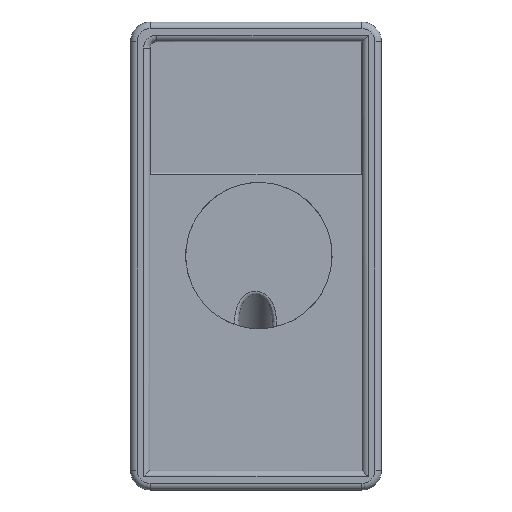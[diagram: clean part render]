
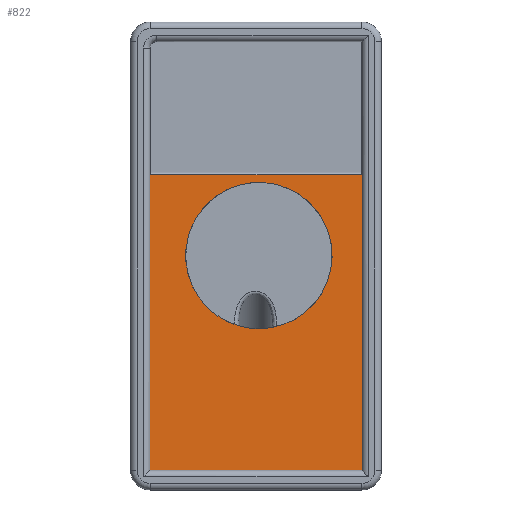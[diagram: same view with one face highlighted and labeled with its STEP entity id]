
A CAD part, top view. The second image highlights one B-rep face of the part: STEP entity #822.
In plain terms, the highlighted planar face has unit normal (0, 0, 1).
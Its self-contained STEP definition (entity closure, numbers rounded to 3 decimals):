
#21=FACE_BOUND('',#303,.T.);
#53=CIRCLE('',#914,28.);
#73=PLANE('',#924);
#81=LINE('',#1503,#141);
#84=LINE('',#1520,#144);
#93=LINE('',#1563,#153);
#120=LINE('',#1664,#180);
#141=VECTOR('',#966,10.);
#144=VECTOR('',#973,10.);
#153=VECTOR('',#1006,10.);
#180=VECTOR('',#1123,10.);
#255=FACE_OUTER_BOUND('',#302,.T.);
#302=EDGE_LOOP('',(#727,#728,#729,#730));
#303=EDGE_LOOP('',(#731,#732));
#332=B_SPLINE_CURVE_WITH_KNOTS('',3,(#1449,#1450,#1451,#1452,#1453,#1454,
#1455,#1456,#1457,#1458,#1459,#1460,#1461,#1462,#1463,#1464,#1465,#1466,
#1467,#1468,#1469,#1470,#1471,#1472),.UNSPECIFIED.,.F.,.F.,(4,2,2,2,2,2,
2,2,2,2,2,4),(0.,0.018,0.142,0.152,0.156,
0.159,0.162,0.167,0.178,
0.203,0.267,0.308),.UNSPECIFIED.);
#353=VERTEX_POINT('',#1447);
#354=VERTEX_POINT('',#1448);
#358=VERTEX_POINT('',#1497);
#360=VERTEX_POINT('',#1501);
#364=VERTEX_POINT('',#1511);
#378=VERTEX_POINT('',#1553);
#434=EDGE_CURVE('',#353,#354,#332,.T.);
#442=EDGE_CURVE('',#360,#358,#81,.T.);
#447=EDGE_CURVE('',#360,#364,#84,.T.);
#465=EDGE_CURVE('',#378,#358,#93,.T.);
#513=EDGE_CURVE('',#353,#354,#53,.T.);
#516=EDGE_CURVE('',#378,#364,#120,.T.);
#727=ORIENTED_EDGE('',*,*,#516,.F.);
#728=ORIENTED_EDGE('',*,*,#465,.T.);
#729=ORIENTED_EDGE('',*,*,#442,.F.);
#730=ORIENTED_EDGE('',*,*,#447,.T.);
#731=ORIENTED_EDGE('',*,*,#434,.F.);
#732=ORIENTED_EDGE('',*,*,#513,.T.);
#822=ADVANCED_FACE('',(#255,#21),#73,.T.);
#914=AXIS2_PLACEMENT_3D('',#1659,#1116,#1117);
#924=AXIS2_PLACEMENT_3D('',#1682,#1145,#1146);
#966=DIRECTION('',(-1.,0.,0.));
#973=DIRECTION('',(0.,1.,0.));
#1006=DIRECTION('',(0.,-1.,0.));
#1116=DIRECTION('center_axis',(0.,0.,-1.));
#1117=DIRECTION('ref_axis',(1.,0.,0.));
#1123=DIRECTION('',(1.,0.,0.));
#1145=DIRECTION('center_axis',(0.,0.,1.));
#1146=DIRECTION('ref_axis',(1.,0.,0.));
#1447=CARTESIAN_POINT('',(33.643,-100.819,21.));
#1448=CARTESIAN_POINT('',(37.039,-101.003,21.));
#1449=CARTESIAN_POINT('Ctrl Pts',(33.643,-100.819,21.));
#1450=CARTESIAN_POINT('Ctrl Pts',(33.703,-100.826,21.));
#1451=CARTESIAN_POINT('Ctrl Pts',(33.764,-100.833,21.));
#1452=CARTESIAN_POINT('Ctrl Pts',(34.234,-100.89,21.));
#1453=CARTESIAN_POINT('Ctrl Pts',(34.649,-100.946,21.));
#1454=CARTESIAN_POINT('Ctrl Pts',(35.164,-100.982,21.));
#1455=CARTESIAN_POINT('Ctrl Pts',(35.202,-100.984,21.));
#1456=CARTESIAN_POINT('Ctrl Pts',(35.255,-100.988,21.));
#1457=CARTESIAN_POINT('Ctrl Pts',(35.271,-100.989,21.));
#1458=CARTESIAN_POINT('Ctrl Pts',(35.299,-100.99,21.));
#1459=CARTESIAN_POINT('Ctrl Pts',(35.31,-100.991,21.));
#1460=CARTESIAN_POINT('Ctrl Pts',(35.333,-100.992,21.));
#1461=CARTESIAN_POINT('Ctrl Pts',(35.345,-100.993,21.));
#1462=CARTESIAN_POINT('Ctrl Pts',(35.373,-100.994,21.));
#1463=CARTESIAN_POINT('Ctrl Pts',(35.39,-100.995,21.));
#1464=CARTESIAN_POINT('Ctrl Pts',(35.45,-100.998,21.));
#1465=CARTESIAN_POINT('Ctrl Pts',(35.494,-101.,21.));
#1466=CARTESIAN_POINT('Ctrl Pts',(35.634,-101.006,21.));
#1467=CARTESIAN_POINT('Ctrl Pts',(35.73,-101.008,21.));
#1468=CARTESIAN_POINT('Ctrl Pts',(36.074,-101.014,21.));
#1469=CARTESIAN_POINT('Ctrl Pts',(36.298,-101.012,21.));
#1470=CARTESIAN_POINT('Ctrl Pts',(36.724,-101.007,21.));
#1471=CARTESIAN_POINT('Ctrl Pts',(36.881,-101.004,21.));
#1472=CARTESIAN_POINT('Ctrl Pts',(37.039,-101.003,21.));
#1497=CARTESIAN_POINT('',(-4.801,-155.165,21.));
#1501=CARTESIAN_POINT('',(76.3,-155.165,21.));
#1503=CARTESIAN_POINT('',(56.,-155.165,21.));
#1511=CARTESIAN_POINT('',(76.3,-42.165,21.));
#1520=CARTESIAN_POINT('',(76.3,-32.395,21.));
#1553=CARTESIAN_POINT('',(-4.801,-42.165,21.));
#1563=CARTESIAN_POINT('',(-4.801,-114.395,21.));
#1659=CARTESIAN_POINT('Origin',(36.86,-73.004,21.));
#1664=CARTESIAN_POINT('',(56.,-42.165,21.));
#1682=CARTESIAN_POINT('Origin',(35.75,-73.165,21.));
